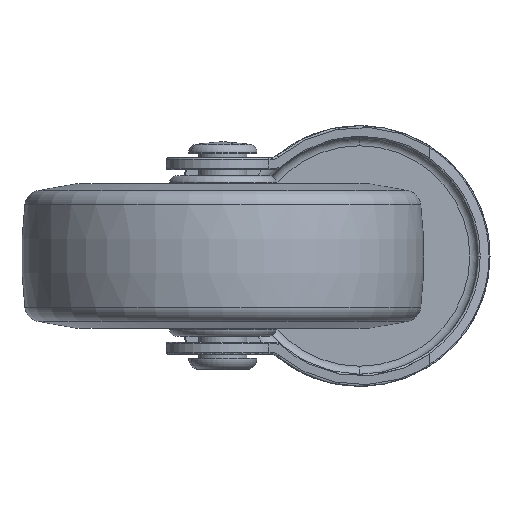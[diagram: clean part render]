
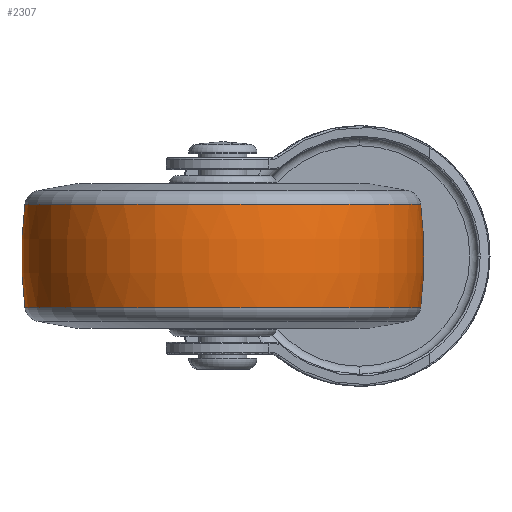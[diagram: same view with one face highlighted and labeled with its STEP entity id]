
A CAD part, front view. The second image highlights one B-rep face of the part: STEP entity #2307.
In plain terms, the highlighted toroidal (fillet/blend) face has major radius 25 mm and minor radius 50 mm.
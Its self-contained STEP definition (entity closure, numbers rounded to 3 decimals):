
#43 = VERTEX_POINT ( 'NONE', #144 ) ;
#144 = CARTESIAN_POINT ( 'NONE',  ( 24.587, 0., 6.414 ) ) ;
#205 = EDGE_CURVE ( 'NONE', #2218, #2735, #2107, .T. ) ;
#439 = EDGE_CURVE ( 'NONE', #4087, #43, #3233, .T. ) ;
#474 = CIRCLE ( 'NONE', #2250, 24.587 ) ;
#532 = CARTESIAN_POINT ( 'NONE',  ( -25., 0., 0. ) ) ;
#937 = CARTESIAN_POINT ( 'NONE',  ( 24.587, 0., -6.414 ) ) ;
#952 = DIRECTION ( 'NONE',  ( 0., 0., -1. ) ) ;
#1219 = AXIS2_PLACEMENT_3D ( 'NONE', #1823, #4779, #5203 ) ;
#1252 = DIRECTION ( 'NONE',  ( 0., 0., 1. ) ) ;
#1292 = CARTESIAN_POINT ( 'NONE',  ( -24.587, 0., 6.414 ) ) ;
#1430 = CIRCLE ( 'NONE', #3468, 24.587 ) ;
#1823 = CARTESIAN_POINT ( 'NONE',  ( 0., 0., 0. ) ) ;
#1894 = ORIENTED_EDGE ( 'NONE', *, *, #5216, .T. ) ;
#2015 = DIRECTION ( 'NONE',  ( 0., 1., 0. ) ) ;
#2046 = CARTESIAN_POINT ( 'NONE',  ( 25., 0., 0. ) ) ;
#2076 = EDGE_CURVE ( 'NONE', #2735, #43, #474, .T. ) ;
#2107 = CIRCLE ( 'NONE', #4490, 50. ) ;
#2108 = DIRECTION ( 'NONE',  ( 0., 0., 1. ) ) ;
#2192 = DIRECTION ( 'NONE',  ( 0., -1., 0. ) ) ;
#2218 = VERTEX_POINT ( 'NONE', #3482 ) ;
#2250 = AXIS2_PLACEMENT_3D ( 'NONE', #4715, #2108, #4304 ) ;
#2307 = ADVANCED_FACE ( 'NONE', ( #2449 ), #4328, .T. ) ;
#2310 = ORIENTED_EDGE ( 'NONE', *, *, #205, .F. ) ;
#2449 = FACE_OUTER_BOUND ( 'NONE', #5161, .T. ) ;
#2486 = DIRECTION ( 'NONE',  ( -1., 0., 0. ) ) ;
#2735 = VERTEX_POINT ( 'NONE', #1292 ) ;
#3119 = ORIENTED_EDGE ( 'NONE', *, *, #2076, .F. ) ;
#3233 = CIRCLE ( 'NONE', #5498, 50. ) ;
#3382 = CARTESIAN_POINT ( 'NONE',  ( 0., 0., -6.414 ) ) ;
#3468 = AXIS2_PLACEMENT_3D ( 'NONE', #3382, #1252, #4234 ) ;
#3482 = CARTESIAN_POINT ( 'NONE',  ( -24.587, 0., -6.414 ) ) ;
#4087 = VERTEX_POINT ( 'NONE', #937 ) ;
#4234 = DIRECTION ( 'NONE',  ( 1., 0., 0. ) ) ;
#4304 = DIRECTION ( 'NONE',  ( 1., 0., 0. ) ) ;
#4328 = TOROIDAL_SURFACE ( 'NONE', #1219, -25., 50. ) ;
#4490 = AXIS2_PLACEMENT_3D ( 'NONE', #2046, #2015, #2486 ) ;
#4715 = CARTESIAN_POINT ( 'NONE',  ( 0., 0., 6.414 ) ) ;
#4779 = DIRECTION ( 'NONE',  ( 0., 0., 1. ) ) ;
#5161 = EDGE_LOOP ( 'NONE', ( #2310, #1894, #5363, #3119 ) ) ;
#5203 = DIRECTION ( 'NONE',  ( 1., 0., 0. ) ) ;
#5216 = EDGE_CURVE ( 'NONE', #2218, #4087, #1430, .T. ) ;
#5363 = ORIENTED_EDGE ( 'NONE', *, *, #439, .T. ) ;
#5498 = AXIS2_PLACEMENT_3D ( 'NONE', #532, #2192, #952 ) ;
